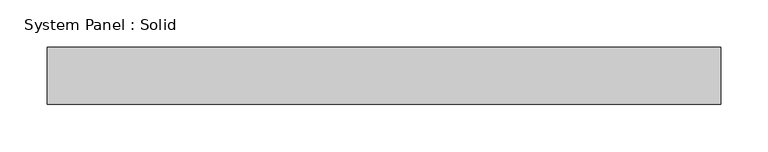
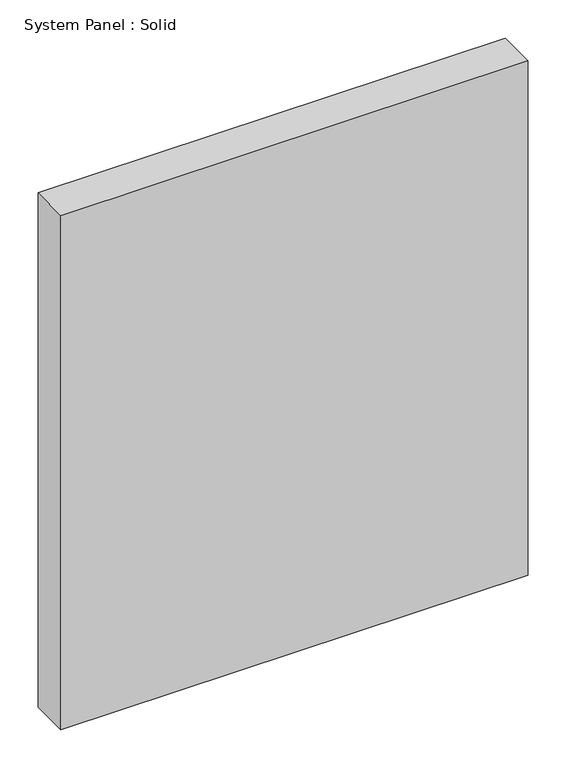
"""IFC4 building model written with IfcOpenShell, lengths in millimetres: plate geometry, System Panel : Solid."""

from ifc_helpers import new_model, si_unit, origin, origin_with_axes, place, context, project, spatial, polyline, outline, extrude, source, transform, mapped, element, save


def system_panel_solid_286dc7ff(model_context):
    return source(origin(), model_context, "Body", "SweptSolid", [
        extrude(outline(polyline([(354.5833334, -10.5), (-354.5833334, -10.5), (-354.5833334, 49.5), (354.5833334, 49.5), (354.5833334, -10.5)])), origin_with_axes(), (0.0, 0.0, 1.0), 825.0),
    ])


if __name__ == "__main__":
    model = new_model("IFC4")
    model_context = context("Model", 3, world=origin())
    ifc_project = project(units=[si_unit("LENGTHUNIT", "METRE", prefix="MILLI")], contexts=[model_context])
    site = spatial("IfcSite", under=ifc_project)
    building = spatial("IfcBuilding", under=site)
    placement = place(None, origin())
    system_panel_solid_shape = system_panel_solid_286dc7ff(model_context)
    element("IfcPlate", 1, ObjectType="System Panel : Solid", at=placement, inside=building, context=model_context, shape_type="MappedRepresentation", body=[
        mapped(system_panel_solid_shape, transform((0.0, 0.0, 0.0), x_axis=(1.0, 0.0, 0.0), y_axis=(0.0, 1.0, 0.0), z_axis=(0.0, 0.0, 1.0))),
    ])
    save(model, "model.ifc")
